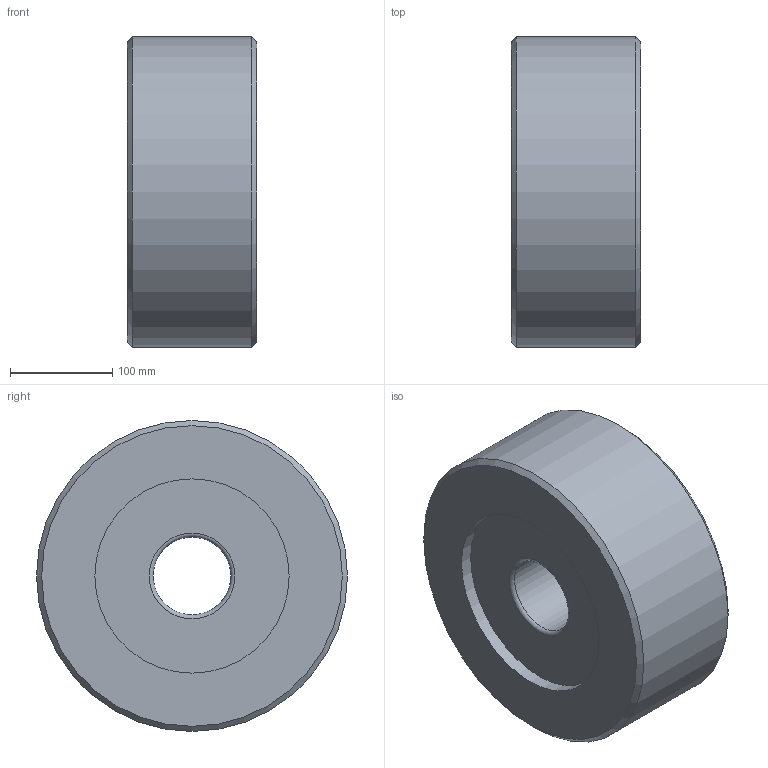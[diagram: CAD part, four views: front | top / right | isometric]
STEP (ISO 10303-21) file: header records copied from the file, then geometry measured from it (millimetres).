
FILE_DESCRIPTION((''),'1');
FILE_NAME('H:/図庫/国内ﾕﾆｯﾄ/ｶﾀﾛｸﾞ/樹脂巻き/ホームページ用ＣＡＤ図面/update用/3D/', '2017-07-13T02:42:42',(''), (''), 'KCM Version 1.1.1442.0', 'Kubotek KeyCreator', '');
FILE_SCHEMA(('AUTOMOTIVE_DESIGN'));
Length unit declared in the file: inch
Bounding box: 127 x 304.8 x 304.8 mm (x, y, z)
Surface area: 291407.8 mm2 (no closed solid volume)
Topology: 0 solids, 12 shells, 12 faces, 40 edges, 32 vertices
Faces by surface type: plane 4, cylinder 4, torus 2, cone 2
Full cylindrical faces by diameter (mm): 76.2 x1, 190.5 x2, 304.8 x1
Entity records: 476 total; most frequent: DIRECTION 92, CARTESIAN_POINT 81, ORIENTED_EDGE 48, AXIS2_PLACEMENT_3D 43, EDGE_CURVE 40, VERTEX_POINT 32, CIRCLE 30, EDGE_LOOP 16
